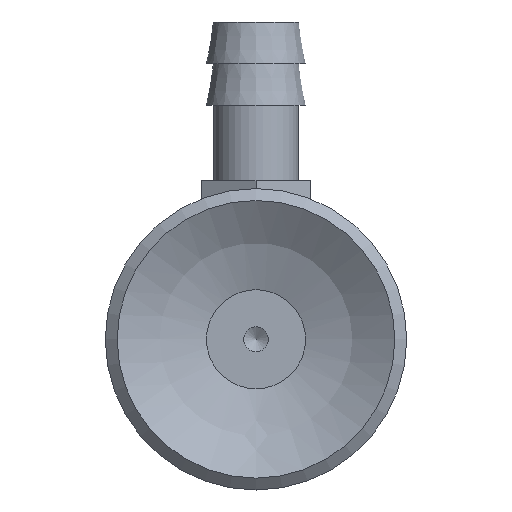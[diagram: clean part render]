
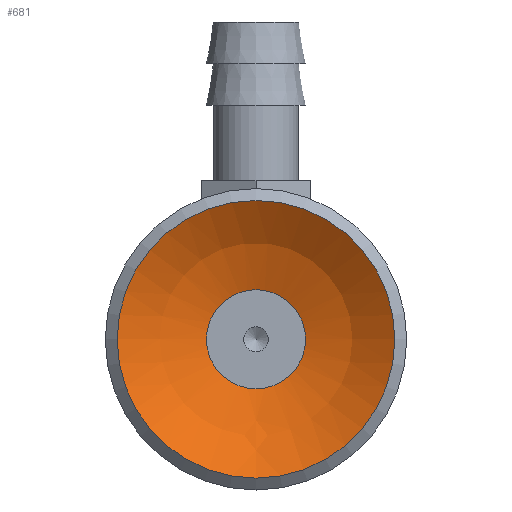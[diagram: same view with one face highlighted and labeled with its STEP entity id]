
A CAD part, front view. The second image highlights one B-rep face of the part: STEP entity #681.
In plain terms, the highlighted spherical face has radius 11.5 mm.
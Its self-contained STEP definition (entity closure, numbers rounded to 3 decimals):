
#681=ADVANCED_FACE('',(#1155,#1156),#1157,.F.);
#1155=FACE_OUTER_BOUND('',#1739,.T.);
#1156=FACE_OUTER_BOUND('',#1740,.T.);
#1157=SPHERICAL_SURFACE('',#1741,11.5);
#1739=EDGE_LOOP('',(#3109));
#1740=EDGE_LOOP('',(#3110));
#1741=AXIS2_PLACEMENT_3D('',#3111,#3112,#3113);
#3109=ORIENTED_EDGE('',*,*,#3992,.T.);
#3110=ORIENTED_EDGE('',*,*,#3993,.F.);
#3111=CARTESIAN_POINT('',(0.001,9.494,-22.735));
#3112=DIRECTION('',(0.0,0.,-1.0));
#3113=DIRECTION('',(1.0,0.0,0.0));
#3992=EDGE_CURVE('',#4755,#4755,#4756,.T.);
#3993=EDGE_CURVE('',#4757,#4757,#4758,.T.);
#4755=VERTEX_POINT('',#6648);
#4756=CIRCLE('',#6649,7.0);
#4757=VERTEX_POINT('',#6650);
#4758=CIRCLE('',#6651,2.5);
#6648=CARTESIAN_POINT('',(0.001,16.494,-13.611));
#6649=AXIS2_PLACEMENT_3D('',#7429,#7430,#7431);
#6650=CARTESIAN_POINT('',(0.001,11.994,-11.51));
#6651=AXIS2_PLACEMENT_3D('',#7432,#7433,#7434);
#7429=CARTESIAN_POINT('',(0.001,9.494,-13.611));
#7430=DIRECTION('',(0.0,0.,-1.0));
#7431=DIRECTION('',(0.0,1.0,0.));
#7432=CARTESIAN_POINT('',(0.001,9.494,-11.51));
#7433=DIRECTION('',(0.0,0.,-1.0));
#7434=DIRECTION('',(0.0,1.0,0.));
